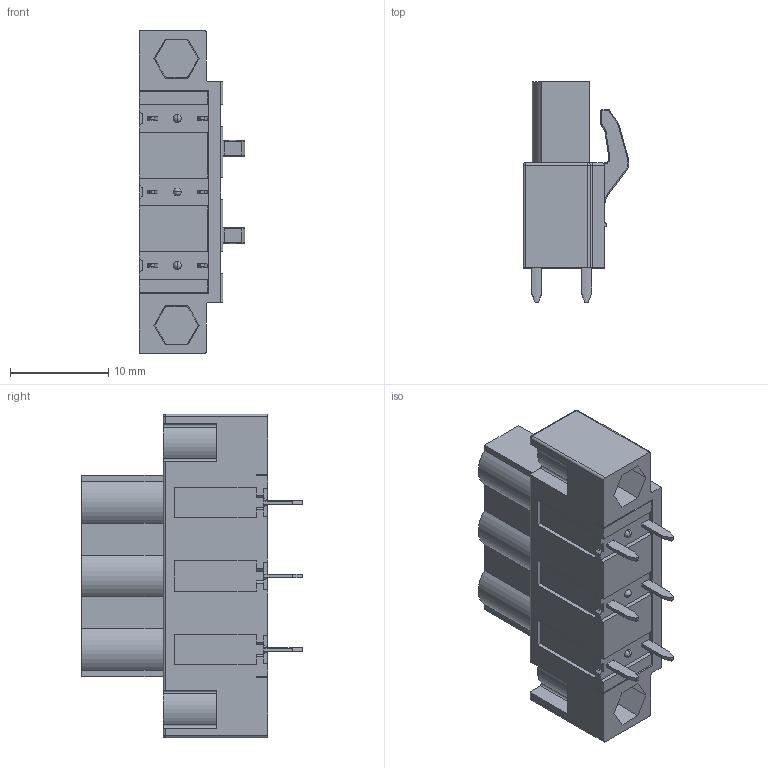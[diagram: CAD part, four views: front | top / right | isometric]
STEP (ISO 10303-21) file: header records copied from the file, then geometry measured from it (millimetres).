
FILE_DESCRIPTION((''),'2;1');
FILE_NAME('V703A2X00000G','2019-04-19T',('zhenbing.lai'),(''),'CREO PARAMETRIC BY PTC INC, 2016260','CREO PARAMETRIC BY PTC INC, 2016260','');
FILE_SCHEMA(('CONFIG_CONTROL_DESIGN'));
Length unit declared in the file: millimetre
Products named in the file (1): V703A2X00000G
Bounding box: 10.81 x 22.5 x 33 mm (x, y, z)
Volume: 3383.7 mm3; surface area: 2395.6 mm2
Topology: 1 solids, 1 shells, 440 faces, 1167 edges, 743 vertices
Faces by surface type: plane 234, cylinder 134, torus 27, bspline 25, sphere 10, cone 10
Entity records: 14091 total; most frequent: CARTESIAN_POINT 3137, ORIENTED_EDGE 2314, DIRECTION 2259, EDGE_CURVE 1157, AXIS2_PLACEMENT_3D 764, VERTEX_POINT 743, VECTOR 731, LINE 731
